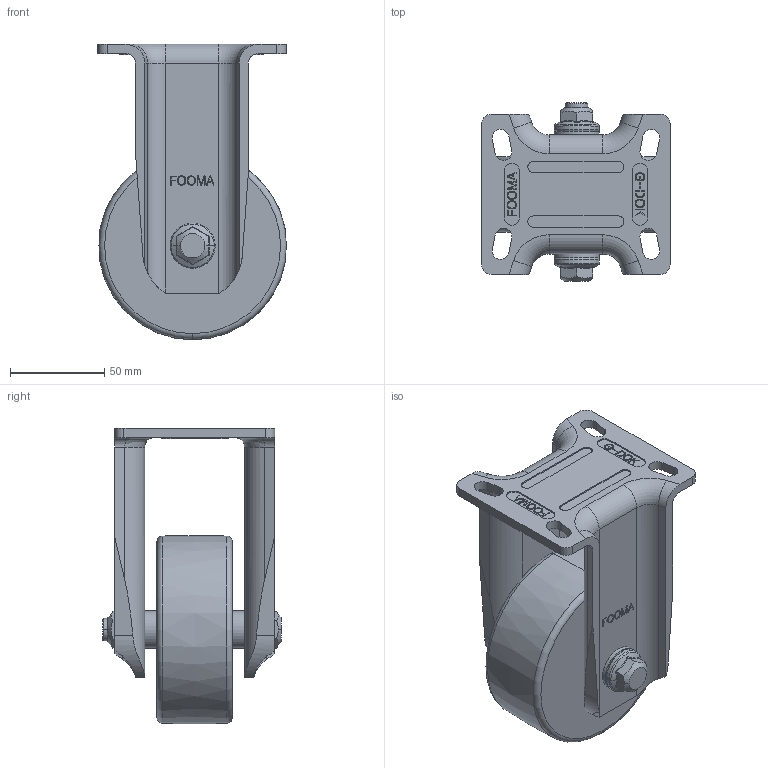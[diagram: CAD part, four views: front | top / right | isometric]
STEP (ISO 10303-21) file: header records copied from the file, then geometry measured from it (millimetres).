
FILE_DESCRIPTION((''),'2;1');
FILE_NAME('PH-100-ARF-SUD.stp','2013-04-30T11:58:40',(''),(''),'Mechanical Desktop 2009','Mechanical Desktop 2009',', , ');
FILE_SCHEMA(('CONFIG_CONTROL_DESIGN'));
Length unit declared in the file: millimetre
Products named in the file (2): PH-100-ARF-SUD; PH00RF FRAME
Assembly tree (1 placements, depth 2):
  PH-100-ARF-SUD
    PH00RF FRAME
Bounding box: 100.07 x 94.8 x 156.94 mm (x, y, z)
Volume: 440182.7 mm3; surface area: 81156.6 mm2
Topology: 1 solids, 1 shells, 625 faces, 1688 edges, 1110 vertices
Faces by surface type: bspline 334, plane 199, cylinder 66, torus 16, cone 10
Entity records: 23007 total; most frequent: CARTESIAN_POINT 9405, ORIENTED_EDGE 3376, DIRECTION 1758, EDGE_CURVE 1688, VERTEX_POINT 1110, VECTOR 812, LINE 812, EDGE_LOOP 680
